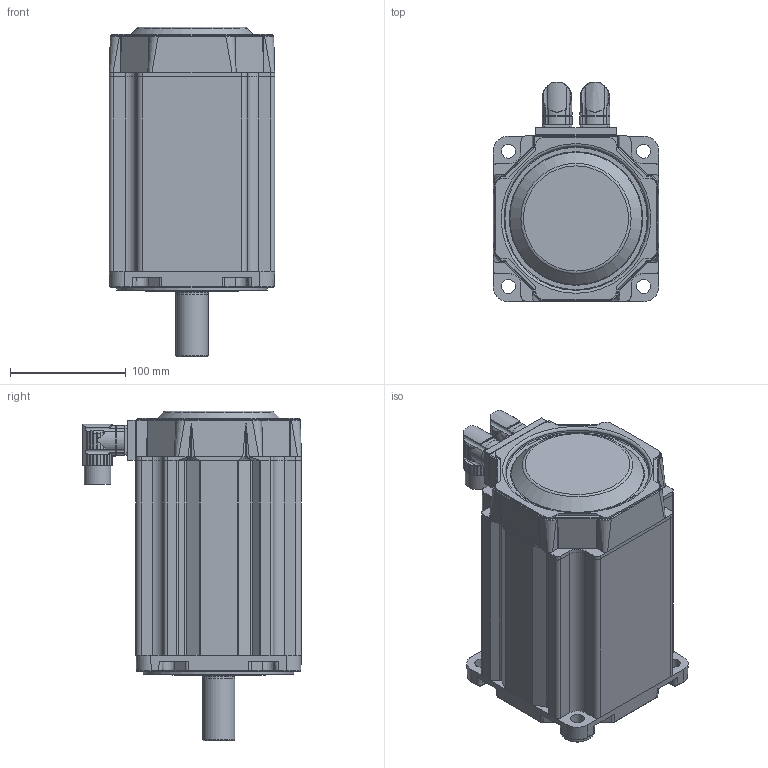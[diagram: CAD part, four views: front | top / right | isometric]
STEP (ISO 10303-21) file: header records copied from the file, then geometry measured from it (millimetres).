
FILE_DESCRIPTION((''),'2;1');
FILE_NAME('C:\CAD_work\Dummy_Modeling_Project_02-12-05\3D MODELS\MPP1422XXX_NPSB.stp','2005-12-20T17:30:07',('jevans'),(''),'Autodesk Inventor 10','Autodesk Inventor 10','');
FILE_SCHEMA(('AUTOMOTIVE_DESIGN { 1 0 10303 214 1 1 1 1 }'));
Length unit declared in the file: inch
Products named in the file (1): MPP142_MOTOR
Bounding box: 142.75 x 188.8 x 284.48 mm (x, y, z)
Volume: 3902518.7 mm3; surface area: 234584.6 mm2
Topology: 3 solids, 3 shells, 905 faces, 2284 edges, 1422 vertices
Faces by surface type: bspline 336, cylinder 287, plane 224, cone 35, torus 21, sphere 2
Full cylindrical faces by diameter (mm): 1.143 x17, 2.032 x6, 2.794 x2, 19.05 x1, 19.685 x1, 22.86 x1, 27.645 x1, 28.001 x1, 29.921 x1, 29.997 x1, 36.83 x1, 55.88 x1, 66.04 x1, 71.526 x1, 72.009 x1, 72.034 x2, 76.352 x1, 80.95 x1, 124.46 x1, 129.997 x1
Entity records: 37280 total; most frequent: CARTESIAN_POINT 17816, ORIENTED_EDGE 4334, DIRECTION 3475, EDGE_CURVE 2167, VERTEX_POINT 1398, AXIS2_PLACEMENT_3D 1344, EDGE_LOOP 1053, FACE_OUTER_BOUND 905
